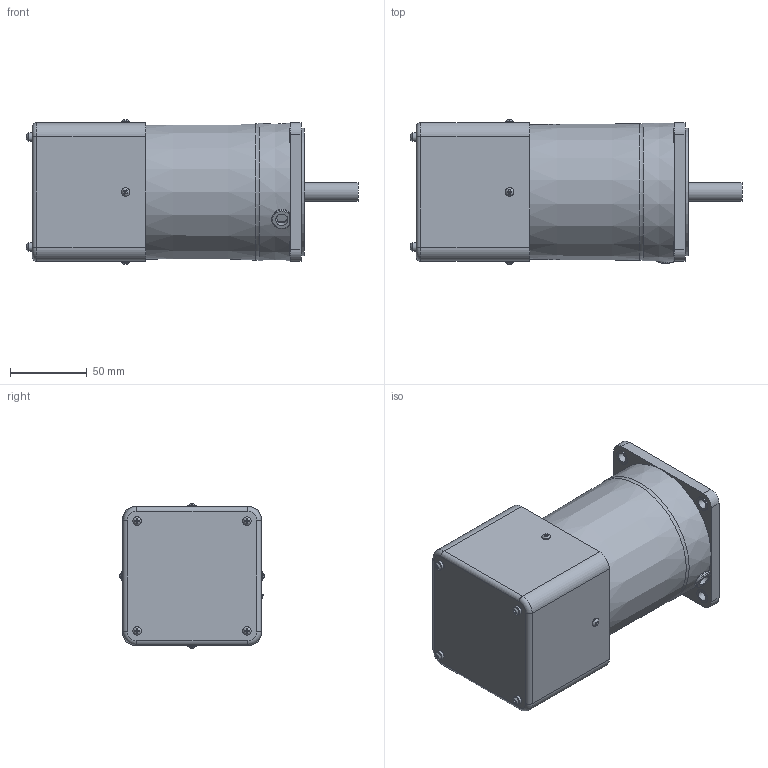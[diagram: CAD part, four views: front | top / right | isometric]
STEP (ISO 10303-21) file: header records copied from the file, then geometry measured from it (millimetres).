
FILE_DESCRIPTION((''),'2;1');
FILE_NAME('D:\STP파일\90W MOTOR\SPEED CONTROL\S9I90S-S.stp','2013-05-20T18:47:37',('leebh'),(''),'Autodesk Inventor 2011','Autodesk Inventor 2011','');
FILE_SCHEMA(('AUTOMOTIVE_DESIGN { 1 0 10303 214 1 1 1 1 }'));
Length unit declared in the file: millimetre
Products named in the file (1): S9I90G-T1
Bounding box: 215.75 x 93.89 x 93.89 mm (x, y, z)
Volume: 966294.7 mm3; surface area: 105385.6 mm2
Topology: 1 solids, 7 shells, 282 faces, 675 edges, 435 vertices
Faces by surface type: plane 173, cylinder 69, torus 26, bspline 8, cone 6
Full cylindrical faces by diameter (mm): 3 x8, 4.5 x4, 5.6 x12, 6.5 x4, 8 x1, 9.5 x4, 10 x1, 12 x1, 40 x1, 83 x1
Entity records: 8543 total; most frequent: CARTESIAN_POINT 2203, DIRECTION 1216, ORIENTED_EDGE 1186, EDGE_CURVE 593, AXIS2_PLACEMENT_3D 449, VERTEX_POINT 422, EDGE_LOOP 397, VECTOR 318
